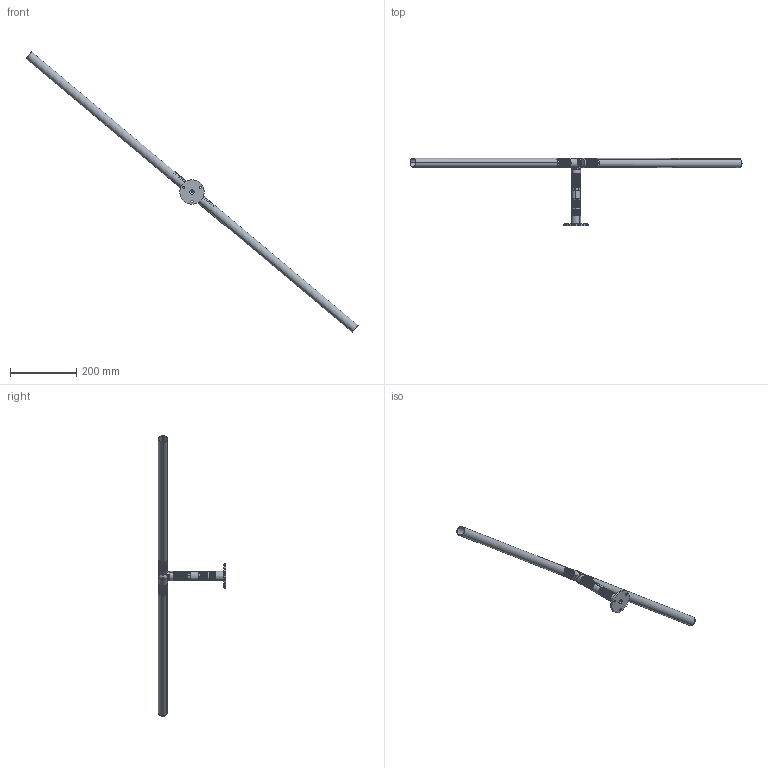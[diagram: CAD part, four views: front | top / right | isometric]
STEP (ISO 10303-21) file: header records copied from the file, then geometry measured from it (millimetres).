
FILE_DESCRIPTION (( 'STEP AP214' ), '1' );
FILE_NAME ('Single Sided Clevis to Male with Threaded End and Flange Connector to Single Sided Clevis.STEP', '2013-08-19T15:19:02', ( 'ydmin' ), ( 'Microsoft' ), 'SwSTEP 2.0', 'SolidWorks 2013', '' );
FILE_SCHEMA (( 'AUTOMOTIVE_DESIGN' ));
Length unit declared in the file: inch
Products named in the file (10): 6.000 Inch Tube; DRP-002-0512-00_LEFT-TO-RIGHT OUTER TUBE INSERT; DRP-002-0511-00_LEFT-TO-RIGHT OUTER TUBE INSERT; DRP-002-0509-00_MALE YOKE TUBE INSERT; DRP-002-0513-00_FLAT END WITH THREADED HOLE; DRP-002-0506-00; Single Sided Clevis to Male with Threaded End and Flange Connector to Single Sided Clevis; 91990A255 (1)_91990A255; 91255A542_91255A542; Shorter Tube
Assembly tree (11 placements, depth 2):
  Single Sided Clevis to Male with Threaded End and Flange Connector to Single Sided Clevis
    DRP-002-0506-00
    DRP-002-0513-00_FLAT END WITH THREADED HOLE
    DRP-002-0509-00_MALE YOKE TUBE INSERT
    DRP-002-0511-00_LEFT-TO-RIGHT OUTER TUBE INSERT
    DRP-002-0512-00_LEFT-TO-RIGHT OUTER TUBE INSERT
    6.000 Inch Tube  x2
    Shorter Tube
    91255A542_91255A542
    91990A255 (1)_91990A255  x2
Bounding box: 999.13 x 203.92 x 844.09 mm (x, y, z)
Volume: 221123.5 mm3; surface area: 284756.9 mm2
Topology: 11 solids, 11 shells, 1136 faces, 3150 edges, 2034 vertices
Faces by surface type: cylinder 525, plane 450, cone 107, torus 32, bspline 16, sphere 6
Entity records: 40663 total; most frequent: CARTESIAN_POINT 10859, DIRECTION 6317, ORIENTED_EDGE 6216, EDGE_CURVE 3108, AXIS2_PLACEMENT_3D 2252, VERTEX_POINT 2010, LINE 1813, VECTOR 1813
